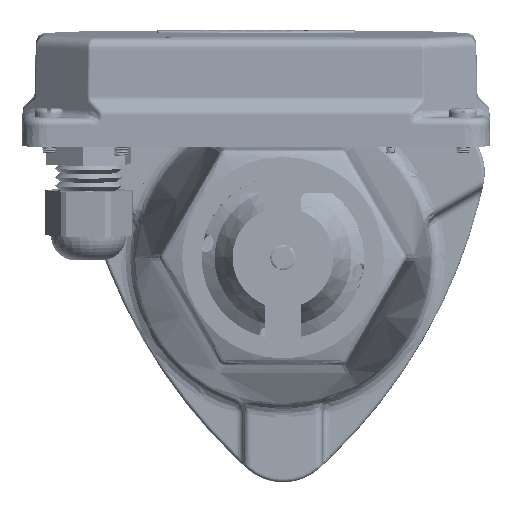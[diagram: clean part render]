
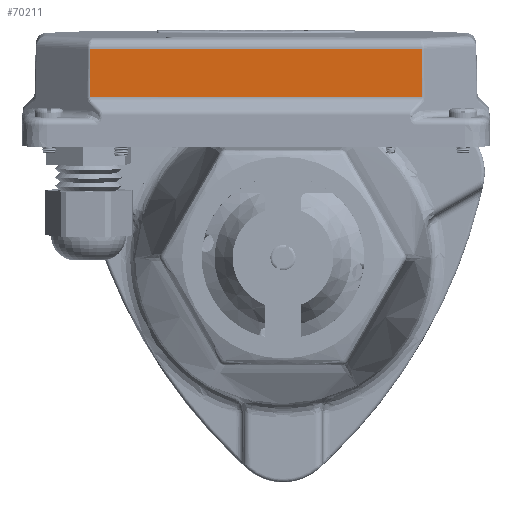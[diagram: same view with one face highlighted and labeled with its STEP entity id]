
A CAD part, front view. The second image highlights one B-rep face of the part: STEP entity #70211.
In plain terms, the highlighted planar face has unit normal (0, -1, -0.025) as drawn and (0, 0.017, 1) by its records, which use the part's own axes.
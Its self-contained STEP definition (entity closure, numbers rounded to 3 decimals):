
#1643 = CARTESIAN_POINT ( 'NONE',  ( -46.131, 13.798, 26.424 ) ) ;
#1858 = EDGE_CURVE ( 'NONE', #119240, #143928, #81378, .T. ) ;
#8357 = CARTESIAN_POINT ( 'NONE',  ( 46.63, 13.798, 26.424 ) ) ;
#8503 = EDGE_CURVE ( 'NONE', #100620, #155424, #221320, .T. ) ;
#29526 = ORIENTED_EDGE ( 'NONE', *, *, #242538, .T. ) ;
#39973 = AXIS2_PLACEMENT_3D ( 'NONE', #208257, #93165, #204987 ) ;
#40802 = CARTESIAN_POINT ( 'NONE',  ( -46.013, 27.052, 26.193 ) ) ;
#53433 = VECTOR ( 'NONE', #80168, 1000. ) ;
#59491 = CARTESIAN_POINT ( 'NONE',  ( -46.035, 27.052, 26.193 ) ) ;
#66301 = CARTESIAN_POINT ( 'NONE',  ( 46.131, 13.798, 26.424 ) ) ;
#69475 = EDGE_CURVE ( 'NONE', #143928, #100620, #184462, .T. ) ;
#70211 = ADVANCED_FACE ( 'NONE', ( #154556 ), #242990, .T. ) ;
#79518 = ORIENTED_EDGE ( 'NONE', *, *, #8503, .T. ) ;
#80168 = DIRECTION ( 'NONE',  ( -0.007, -1., 0.017 ) ) ;
#81378 = LINE ( 'NONE', #8357, #137718 ) ;
#93165 = DIRECTION ( 'NONE',  ( 0., 0.017, 1. ) ) ;
#96982 = CARTESIAN_POINT ( 'NONE',  ( 46.216, 1.997, 26.63 ) ) ;
#98739 = DIRECTION ( 'NONE',  ( -1., 0., 0. ) ) ;
#100620 = VERTEX_POINT ( 'NONE', #217865 ) ;
#119240 = VERTEX_POINT ( 'NONE', #1643 ) ;
#126998 = ORIENTED_EDGE ( 'NONE', *, *, #1858, .T. ) ;
#137718 = VECTOR ( 'NONE', #176691, 1000. ) ;
#143928 = VERTEX_POINT ( 'NONE', #66301 ) ;
#154556 = FACE_OUTER_BOUND ( 'NONE', #213365, .T. ) ;
#155424 = VERTEX_POINT ( 'NONE', #59491 ) ;
#163340 = LINE ( 'NONE', #174625, #53433 ) ;
#174625 = CARTESIAN_POINT ( 'NONE',  ( -46.211, 2.671, 26.618 ) ) ;
#176691 = DIRECTION ( 'NONE',  ( 1., 0., 0. ) ) ;
#182958 = VECTOR ( 'NONE', #98739, 1000. ) ;
#184462 = LINE ( 'NONE', #96982, #234702 ) ;
#204987 = DIRECTION ( 'NONE',  ( 0., -1., 0.017 ) ) ;
#208257 = CARTESIAN_POINT ( 'NONE',  ( 46.63, 2., 26.63 ) ) ;
#213365 = EDGE_LOOP ( 'NONE', ( #232884, #79518, #29526, #126998 ) ) ;
#217865 = CARTESIAN_POINT ( 'NONE',  ( 46.035, 27.052, 26.193 ) ) ;
#221320 = LINE ( 'NONE', #40802, #182958 ) ;
#229416 = DIRECTION ( 'NONE',  ( -0.007, 1., -0.017 ) ) ;
#232884 = ORIENTED_EDGE ( 'NONE', *, *, #69475, .T. ) ;
#234702 = VECTOR ( 'NONE', #229416, 1000. ) ;
#242538 = EDGE_CURVE ( 'NONE', #155424, #119240, #163340, .T. ) ;
#242990 = PLANE ( 'NONE',  #39973 ) ;
